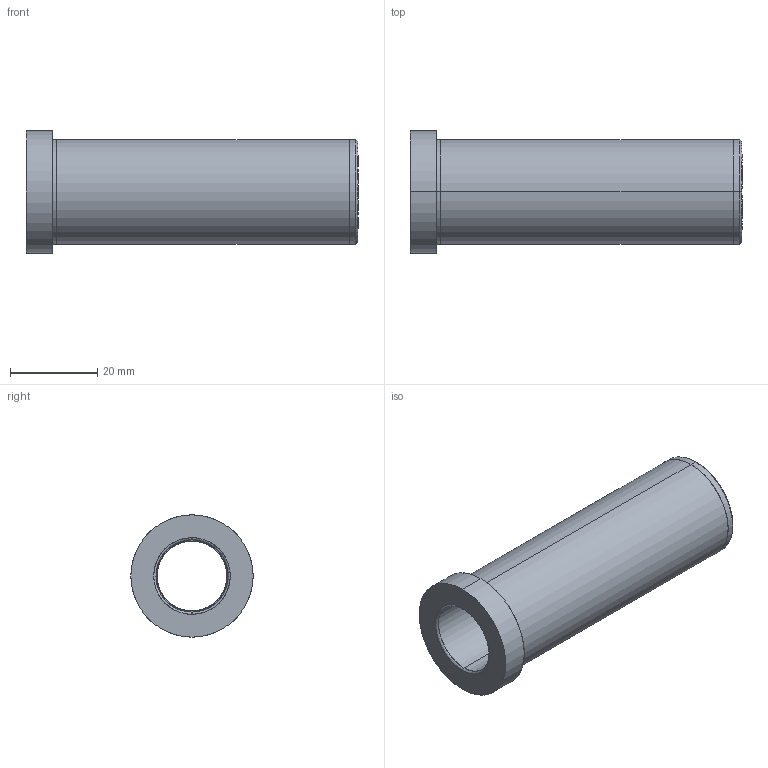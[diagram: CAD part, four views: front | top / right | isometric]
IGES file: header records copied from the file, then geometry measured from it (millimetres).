
Start section: SolidWorks IGES file using analytic representation for surfaces
Global section: file name: C:\Documents and Settings\kalite-mail\Desktop\IGS\D20\D20 - 16x76.IGS; native system: SolidWorks 2008; preprocessor: SolidWorks 2008; author: kalite-mail; date: 080617.113444; units: millimetre
Bounding box: 76 x 28 x 28 mm (x, y, z)
Surface area: 10460.8 mm2 (no closed solid volume)
Topology: 0 solids, 0 shells, 24 faces, 520 edges, 520 vertices
Faces by surface type: revolution 14, bspline 10
